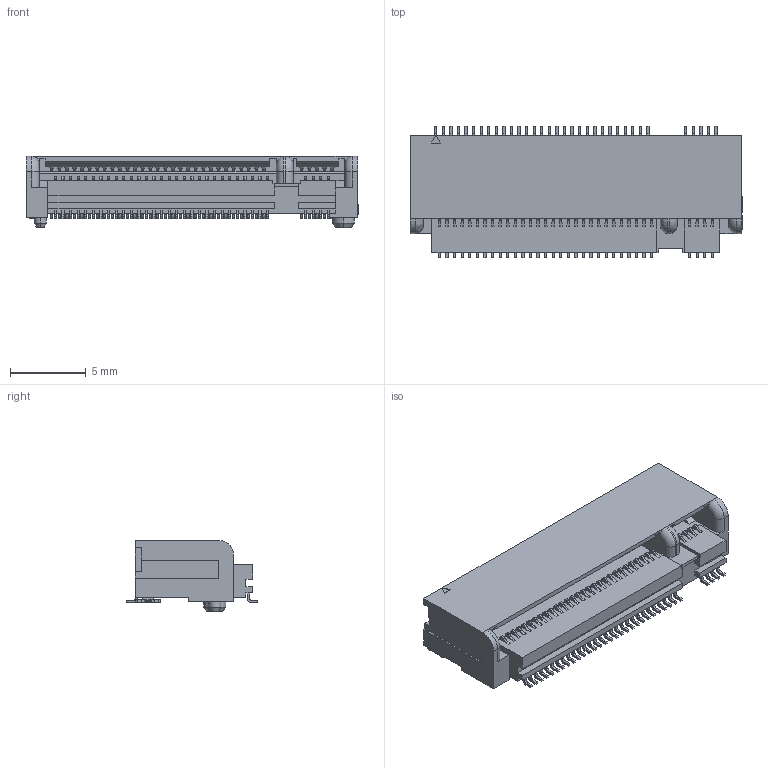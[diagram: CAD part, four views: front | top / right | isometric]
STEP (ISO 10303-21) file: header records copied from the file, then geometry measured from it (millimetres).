
FILE_DESCRIPTION (( 'STEP AP214' ), '1' );
FILE_NAME ('PCIE-SMD_75P-P0.50_1-2199230-5.STEP', '2023-01-10T06:50:19', ( 'PC' ), ( 'Microsoft' ), 'SwSTEP 2.0', 'SolidWorks 2020', '' );
FILE_SCHEMA (( 'AUTOMOTIVE_DESIGN' ));
Length unit declared in the file: millimetre
Products named in the file (1): PCIE-SMD_75P-P0.50_1-2199230-5
Bounding box: 21.91 x 8.7 x 4.7 mm (x, y, z)
Volume: 499.8 mm3; surface area: 757.7 mm2
Topology: 14 solids, 14 shells, 1636 faces, 4394 edges, 2923 vertices
Faces by surface type: plane 1265, cylinder 265, bspline 99, cone 4, torus 3
Entity records: 69468 total; most frequent: CARTESIAN_POINT 10427, ORIENTED_EDGE 8788, DIRECTION 7788, EDGE_CURVE 4394, LINE 3640, VECTOR 3640, VERTEX_POINT 2923, AXIS2_PLACEMENT_3D 2074
